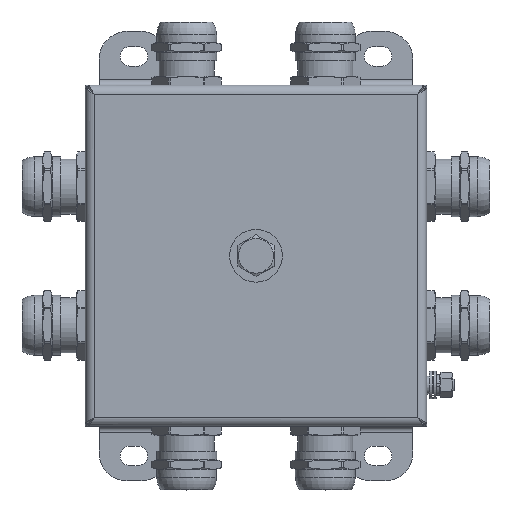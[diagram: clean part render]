
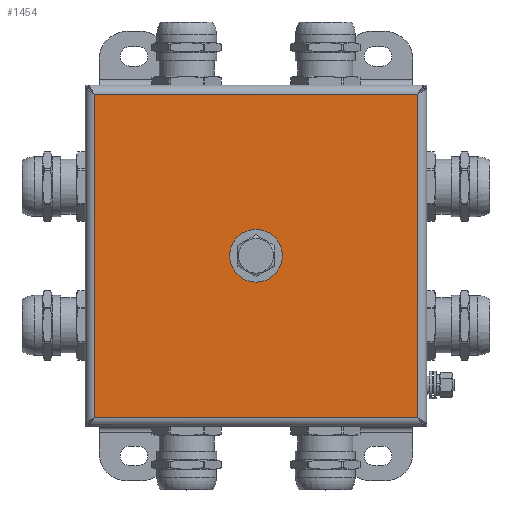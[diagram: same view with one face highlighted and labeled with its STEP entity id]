
A CAD part, top view. The second image highlights one B-rep face of the part: STEP entity #1454.
In plain terms, the highlighted planar face has unit normal (0, 0, 1).
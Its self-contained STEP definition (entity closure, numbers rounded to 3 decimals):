
#1454=ADVANCED_FACE('',(#10166,#10168),#10170,.T.);
#10166=FACE_BOUND('',#10167,.T.);
#10167=EDGE_LOOP('',(#14630,#14631,#14632,#14633));
#10168=FACE_BOUND('',#10169,.T.);
#10169=EDGE_LOOP('',(#14634));
#10170=PLANE('',#10171);
#10171=AXIS2_PLACEMENT_3D('',#10172,#10173,#10174);
#10172=CARTESIAN_POINT('',(0.,0.,61.7));
#10173=DIRECTION('',(0.,-0.,1.));
#10174=DIRECTION('',(0.,1.,0.));
#14630=ORIENTED_EDGE('',*,*,#18041,.T.);
#14631=ORIENTED_EDGE('',*,*,#18042,.T.);
#14632=ORIENTED_EDGE('',*,*,#18043,.T.);
#14633=ORIENTED_EDGE('',*,*,#18044,.T.);
#14634=ORIENTED_EDGE('',*,*,#16696,.T.);
#16696=EDGE_CURVE('',#23142,#23142,#23143,.F.);
#18041=EDGE_CURVE('',#23812,#23813,#23814,.T.);
#18042=EDGE_CURVE('',#23813,#23815,#23816,.T.);
#18043=EDGE_CURVE('',#23815,#23817,#23818,.T.);
#18044=EDGE_CURVE('',#23817,#23812,#23819,.T.);
#23142=VERTEX_POINT('',#25251);
#23143=CIRCLE('',#25252,8.5);
#23812=VERTEX_POINT('',#26799);
#23813=VERTEX_POINT('',#26800);
#23814=LINE('',#26801,#26802);
#23815=VERTEX_POINT('',#26804);
#23816=LINE('',#26805,#26806);
#23817=VERTEX_POINT('',#26808);
#23818=LINE('',#26809,#26810);
#23819=LINE('',#26812,#26813);
#25251=CARTESIAN_POINT('',(-8.5,0.,61.7));
#25252=AXIS2_PLACEMENT_3D('',#25253,#25254,#25255);
#25253=CARTESIAN_POINT('',(0.,0.,61.7));
#25254=DIRECTION('',(0.,-0.,1.));
#25255=DIRECTION('',(-1.,0.,0.));
#26799=CARTESIAN_POINT('',(58.3,58.3,61.7));
#26800=CARTESIAN_POINT('',(-58.3,58.3,61.7));
#26801=CARTESIAN_POINT('',(58.3,58.3,61.7));
#26802=VECTOR('',#26803,1.);
#26803=DIRECTION('',(-1.,0.,0.));
#26804=CARTESIAN_POINT('',(-58.3,-58.3,61.7));
#26805=CARTESIAN_POINT('',(-58.3,58.3,61.7));
#26806=VECTOR('',#26807,1.);
#26807=DIRECTION('',(0.,-1.,0.));
#26808=CARTESIAN_POINT('',(58.3,-58.3,61.7));
#26809=CARTESIAN_POINT('',(-58.3,-58.3,61.7));
#26810=VECTOR('',#26811,1.);
#26811=DIRECTION('',(1.,0.,0.));
#26812=CARTESIAN_POINT('',(58.3,-58.3,61.7));
#26813=VECTOR('',#26814,1.);
#26814=DIRECTION('',(0.,1.,0.));
